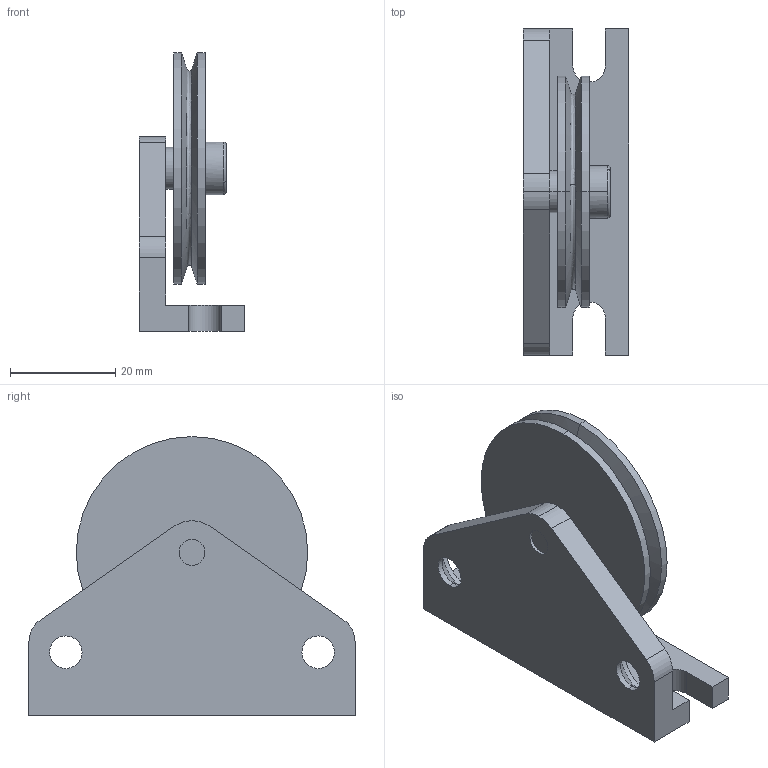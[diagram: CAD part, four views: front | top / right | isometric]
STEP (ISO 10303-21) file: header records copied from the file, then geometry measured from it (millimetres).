
FILE_DESCRIPTION (( 'STEP AP203' ), '1' );
FILE_NAME ('8.0000.7000.step', '2017-02-15T15:11:13', ( 'Turck User' ), ( '' ), 'SwSTEP 2.0', 'SolidWorks 2015', '' );
FILE_SCHEMA (( 'CONFIG_CONTROL_DESIGN' ));
Length unit declared in the file: millimetre
Products named in the file (2): 8.0000.7000
Bounding box: 20 x 62 x 53 mm (x, y, z)
Volume: 20469 mm3; surface area: 10829.4 mm2
Topology: 1 solids, 1 shells, 72 faces, 175 edges, 110 vertices
Faces by surface type: plane 32, cylinder 26, cone 10, bspline 4
Entity records: 2320 total; most frequent: CARTESIAN_POINT 425, DIRECTION 387, ORIENTED_EDGE 350, EDGE_CURVE 175, AXIS2_PLACEMENT_3D 144, VERTEX_POINT 110, VECTOR 99, LINE 99
